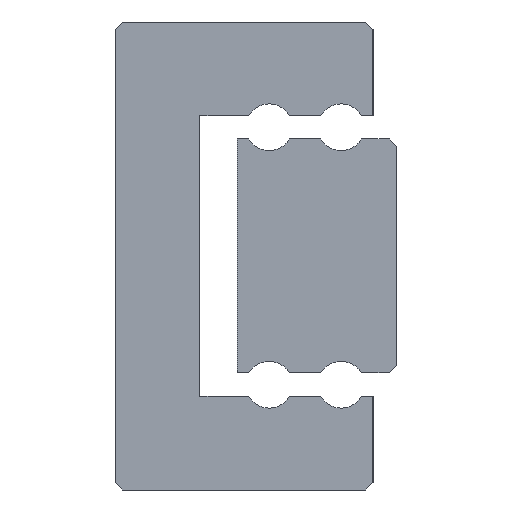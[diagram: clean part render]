
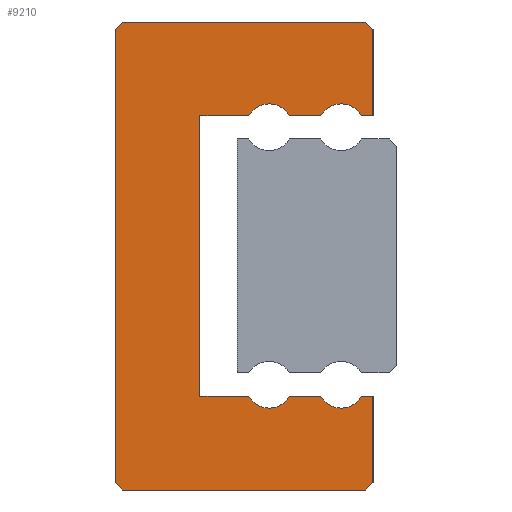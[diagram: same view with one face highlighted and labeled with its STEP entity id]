
A CAD part, left-side view. The second image highlights one B-rep face of the part: STEP entity #9210.
In plain terms, the highlighted planar face has unit normal (-1, 0, 0).
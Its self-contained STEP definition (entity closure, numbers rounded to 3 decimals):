
#294=CIRCLE('',#9994,0.5);
#296=CIRCLE('',#9998,0.5);
#302=CIRCLE('',#10008,0.5);
#304=CIRCLE('',#10012,0.5);
#1538=ORIENTED_EDGE('',*,*,#3866,.F.);
#1539=ORIENTED_EDGE('',*,*,#4314,.F.);
#1540=ORIENTED_EDGE('',*,*,#4311,.F.);
#1541=ORIENTED_EDGE('',*,*,#4304,.F.);
#1542=ORIENTED_EDGE('',*,*,#4301,.F.);
#1543=ORIENTED_EDGE('',*,*,#4298,.F.);
#1544=ORIENTED_EDGE('',*,*,#4295,.F.);
#1545=ORIENTED_EDGE('',*,*,#4292,.F.);
#1546=ORIENTED_EDGE('',*,*,#4289,.T.);
#1547=ORIENTED_EDGE('',*,*,#4286,.F.);
#1548=ORIENTED_EDGE('',*,*,#4283,.T.);
#1549=ORIENTED_EDGE('',*,*,#4280,.F.);
#1550=ORIENTED_EDGE('',*,*,#4277,.F.);
#1551=ORIENTED_EDGE('',*,*,#4270,.F.);
#1552=ORIENTED_EDGE('',*,*,#4267,.T.);
#1553=ORIENTED_EDGE('',*,*,#4264,.F.);
#1554=ORIENTED_EDGE('',*,*,#4261,.T.);
#1555=ORIENTED_EDGE('',*,*,#4258,.F.);
#1556=ORIENTED_EDGE('',*,*,#4255,.F.);
#1557=ORIENTED_EDGE('',*,*,#4252,.F.);
#3866=EDGE_CURVE('',#5284,#5285,#6246,.T.);
#4252=EDGE_CURVE('',#5285,#5670,#6384,.T.);
#4255=EDGE_CURVE('',#5670,#5672,#6387,.T.);
#4258=EDGE_CURVE('',#5672,#5674,#6390,.T.);
#4261=EDGE_CURVE('',#5676,#5674,#294,.T.);
#4264=EDGE_CURVE('',#5676,#5678,#6394,.T.);
#4267=EDGE_CURVE('',#5680,#5678,#296,.T.);
#4270=EDGE_CURVE('',#5680,#5682,#6398,.T.);
#4277=EDGE_CURVE('',#5682,#5688,#6401,.T.);
#4280=EDGE_CURVE('',#5688,#5690,#6404,.T.);
#4283=EDGE_CURVE('',#5692,#5690,#302,.T.);
#4286=EDGE_CURVE('',#5692,#5694,#6408,.T.);
#4289=EDGE_CURVE('',#5696,#5694,#304,.T.);
#4292=EDGE_CURVE('',#5696,#5698,#6412,.T.);
#4295=EDGE_CURVE('',#5698,#5700,#6415,.T.);
#4298=EDGE_CURVE('',#5700,#5702,#6418,.T.);
#4301=EDGE_CURVE('',#5702,#5704,#6421,.T.);
#4304=EDGE_CURVE('',#5704,#5706,#6424,.T.);
#4311=EDGE_CURVE('',#5706,#5712,#6427,.T.);
#4314=EDGE_CURVE('',#5712,#5284,#6430,.T.);
#5284=VERTEX_POINT('',#14021);
#5285=VERTEX_POINT('',#14022);
#5670=VERTEX_POINT('',#14794);
#5672=VERTEX_POINT('',#14800);
#5674=VERTEX_POINT('',#14806);
#5676=VERTEX_POINT('',#14812);
#5678=VERTEX_POINT('',#14818);
#5680=VERTEX_POINT('',#14824);
#5682=VERTEX_POINT('',#14830);
#5688=VERTEX_POINT('',#14844);
#5690=VERTEX_POINT('',#14850);
#5692=VERTEX_POINT('',#14856);
#5694=VERTEX_POINT('',#14862);
#5696=VERTEX_POINT('',#14868);
#5698=VERTEX_POINT('',#14874);
#5700=VERTEX_POINT('',#14880);
#5702=VERTEX_POINT('',#14886);
#5704=VERTEX_POINT('',#14892);
#5706=VERTEX_POINT('',#14898);
#5712=VERTEX_POINT('',#14912);
#6246=LINE('',#14020,#7062);
#6384=LINE('',#14793,#7200);
#6387=LINE('',#14799,#7203);
#6390=LINE('',#14805,#7206);
#6394=LINE('',#14817,#7210);
#6398=LINE('',#14829,#7214);
#6401=LINE('',#14843,#7217);
#6404=LINE('',#14849,#7220);
#6408=LINE('',#14861,#7224);
#6412=LINE('',#14873,#7228);
#6415=LINE('',#14879,#7231);
#6418=LINE('',#14885,#7234);
#6421=LINE('',#14891,#7237);
#6424=LINE('',#14897,#7240);
#6427=LINE('',#14911,#7243);
#6430=LINE('',#14917,#7246);
#7062=VECTOR('',#10941,1000.);
#7200=VECTOR('',#11577,1000.);
#7203=VECTOR('',#11582,1000.);
#7206=VECTOR('',#11587,1000.);
#7210=VECTOR('',#11599,1000.);
#7214=VECTOR('',#11611,1000.);
#7217=VECTOR('',#11624,1000.);
#7220=VECTOR('',#11629,1000.);
#7224=VECTOR('',#11641,1000.);
#7228=VECTOR('',#11653,1000.);
#7231=VECTOR('',#11658,1000.);
#7234=VECTOR('',#11663,1000.);
#7237=VECTOR('',#11668,1000.);
#7240=VECTOR('',#11673,1000.);
#7243=VECTOR('',#11686,1000.);
#7246=VECTOR('',#11691,1000.);
#7918=EDGE_LOOP('',(#1538,#1539,#1540,#1541,#1542,#1543,#1544,#1545,#1546,
#1547,#1548,#1549,#1550,#1551,#1552,#1553,#1554,#1555,#1556,#1557));
#8480=FACE_BOUND('',#7918,.T.);
#8997=PLANE('',#10026);
#9210=ADVANCED_FACE('',(#8480),#8997,.F.);
#9994=AXIS2_PLACEMENT_3D('',#14811,#11592,#11593);
#9998=AXIS2_PLACEMENT_3D('',#14823,#11604,#11605);
#10008=AXIS2_PLACEMENT_3D('',#14855,#11634,#11635);
#10012=AXIS2_PLACEMENT_3D('',#14867,#11646,#11647);
#10026=AXIS2_PLACEMENT_3D('',#14920,#11695,#11696);
#10941=DIRECTION('',(0.,-1.,0.));
#11577=DIRECTION('',(0.,-0.707,-0.707));
#11582=DIRECTION('',(0.,0.,-1.));
#11587=DIRECTION('',(0.,1.,0.));
#11592=DIRECTION('',(1.,0.,0.));
#11593=DIRECTION('',(0.,0.,-1.));
#11599=DIRECTION('',(0.,1.,0.));
#11604=DIRECTION('',(1.,0.,0.));
#11605=DIRECTION('',(0.,0.,-1.));
#11611=DIRECTION('',(0.,1.,0.));
#11624=DIRECTION('',(0.,0.,-1.));
#11629=DIRECTION('',(0.,-1.,0.));
#11634=DIRECTION('',(1.,0.,0.));
#11635=DIRECTION('',(0.,0.,-1.));
#11641=DIRECTION('',(0.,-1.,0.));
#11646=DIRECTION('',(1.,0.,0.));
#11647=DIRECTION('',(0.,0.,-1.));
#11653=DIRECTION('',(0.,-1.,0.));
#11658=DIRECTION('',(0.,0.,-1.));
#11663=DIRECTION('',(0.,0.707,-0.707));
#11668=DIRECTION('',(0.,1.,0.));
#11673=DIRECTION('',(0.,0.707,0.707));
#11686=DIRECTION('',(0.,0.,1.));
#11691=DIRECTION('',(0.,-0.707,0.707));
#11695=DIRECTION('',(1.,0.,0.));
#11696=DIRECTION('',(0.,0.,-1.));
#14020=CARTESIAN_POINT('',(-12.5,5.35,5.));
#14021=CARTESIAN_POINT('',(-12.5,5.35,5.));
#14022=CARTESIAN_POINT('',(-12.5,0.15,5.));
#14793=CARTESIAN_POINT('',(-12.5,0.15,5.));
#14794=CARTESIAN_POINT('',(-12.5,0.,4.85));
#14799=CARTESIAN_POINT('',(-12.5,0.,4.85));
#14800=CARTESIAN_POINT('',(-12.5,0.,3.));
#14805=CARTESIAN_POINT('',(-12.5,0.,3.));
#14806=CARTESIAN_POINT('',(-12.5,0.247,3.));
#14811=CARTESIAN_POINT('',(-12.5,0.68,2.75));
#14812=CARTESIAN_POINT('',(-12.5,1.113,3.));
#14817=CARTESIAN_POINT('',(-12.5,1.113,3.));
#14818=CARTESIAN_POINT('',(-12.5,1.787,3.));
#14823=CARTESIAN_POINT('',(-12.5,2.22,2.75));
#14824=CARTESIAN_POINT('',(-12.5,2.653,3.));
#14829=CARTESIAN_POINT('',(-12.5,2.653,3.));
#14830=CARTESIAN_POINT('',(-12.5,3.7,3.));
#14843=CARTESIAN_POINT('',(-12.5,3.7,3.));
#14844=CARTESIAN_POINT('',(-12.5,3.7,-3.));
#14849=CARTESIAN_POINT('',(-12.5,3.7,-3.));
#14850=CARTESIAN_POINT('',(-12.5,2.653,-3.));
#14855=CARTESIAN_POINT('',(-12.5,2.22,-2.75));
#14856=CARTESIAN_POINT('',(-12.5,1.787,-3.));
#14861=CARTESIAN_POINT('',(-12.5,1.787,-3.));
#14862=CARTESIAN_POINT('',(-12.5,1.113,-3.));
#14867=CARTESIAN_POINT('',(-12.5,0.68,-2.75));
#14868=CARTESIAN_POINT('',(-12.5,0.247,-3.));
#14873=CARTESIAN_POINT('',(-12.5,0.247,-3.));
#14874=CARTESIAN_POINT('',(-12.5,0.,-3.));
#14879=CARTESIAN_POINT('',(-12.5,0.,-3.));
#14880=CARTESIAN_POINT('',(-12.5,0.,-4.85));
#14885=CARTESIAN_POINT('',(-12.5,0.,-4.85));
#14886=CARTESIAN_POINT('',(-12.5,0.15,-5.));
#14891=CARTESIAN_POINT('',(-12.5,0.15,-5.));
#14892=CARTESIAN_POINT('',(-12.5,5.35,-5.));
#14897=CARTESIAN_POINT('',(-12.5,5.35,-5.));
#14898=CARTESIAN_POINT('',(-12.5,5.5,-4.85));
#14911=CARTESIAN_POINT('',(-12.5,5.5,-4.85));
#14912=CARTESIAN_POINT('',(-12.5,5.5,4.85));
#14917=CARTESIAN_POINT('',(-12.5,5.5,4.85));
#14920=CARTESIAN_POINT('',(-12.5,0.68,2.75));
